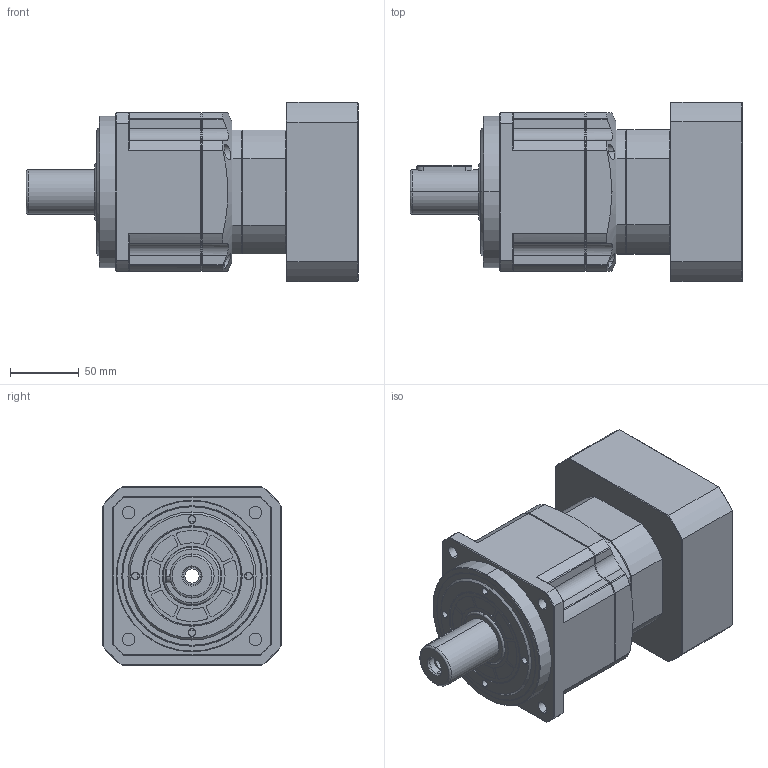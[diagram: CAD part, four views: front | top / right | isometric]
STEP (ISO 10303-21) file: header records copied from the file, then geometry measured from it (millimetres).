
FILE_DESCRIPTION (( 'STEP AP203' ), '1' );
FILE_NAME ('AKB115L2S10X5-110-24-72-M8-145.STEP', '2020-08-11T09:10:36', ( '微软用户' ), ( '微软中国' ), 'SwSTEP 2.0', 'SolidWorks 2008', '' );
FILE_SCHEMA (( 'CONFIG_CONTROL_DESIGN' ));
Length unit declared in the file: millimetre
Products named in the file (1): AKB115L2S10X5-110-24-72-M8-145
Bounding box: 241 x 130 x 130 mm (x, y, z)
Surface area: 158103.7 mm2 (no closed solid volume)
Topology: 0 solids, 22 shells, 461 faces, 1323 edges, 874 vertices
Faces by surface type: plane 183, cylinder 159, cone 103, torus 16
Entity records: 15743 total; most frequent: CARTESIAN_POINT 3730, DIRECTION 2609, ORIENTED_EDGE 2219, EDGE_CURVE 1315, AXIS2_PLACEMENT_3D 988, VERTEX_POINT 874, LINE 633, VECTOR 633
